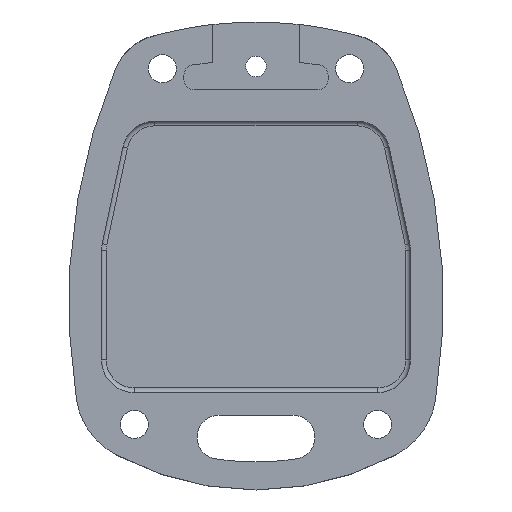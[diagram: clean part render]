
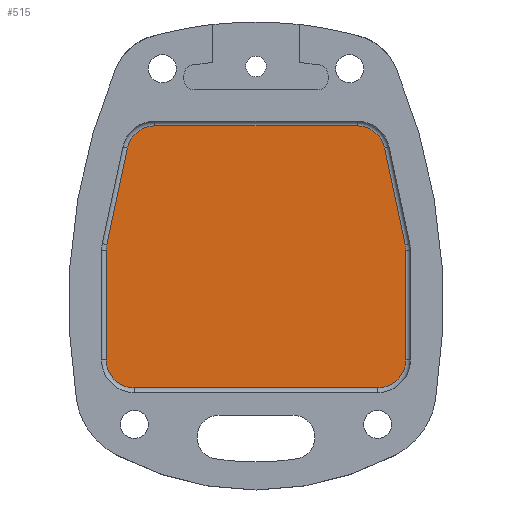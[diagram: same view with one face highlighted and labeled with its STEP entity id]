
A CAD part, front view. The second image highlights one B-rep face of the part: STEP entity #515.
In plain terms, the highlighted planar face has unit normal (0, -1, 0).
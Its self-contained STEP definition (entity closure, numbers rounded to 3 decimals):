
#27 = CIRCLE ( 'NONE', #3168, 3. ) ;
#43 = VERTEX_POINT ( 'NONE', #3328 ) ;
#50 = VERTEX_POINT ( 'NONE', #736 ) ;
#53 = ORIENTED_EDGE ( 'NONE', *, *, #2998, .F. ) ;
#86 = EDGE_CURVE ( 'NONE', #2087, #2676, #3162, .T. ) ;
#232 = CARTESIAN_POINT ( 'NONE',  ( 10.807, 4.5, -12.1 ) ) ;
#290 = AXIS2_PLACEMENT_3D ( 'NONE', #2456, #2124, #2156 ) ;
#309 = LINE ( 'NONE', #394, #1373 ) ;
#394 = CARTESIAN_POINT ( 'NONE',  ( 16., 4.5, -12.1 ) ) ;
#457 = CARTESIAN_POINT ( 'NONE',  ( 13., 4.5, -37.1 ) ) ;
#468 = DIRECTION ( 'NONE',  ( 0., 0., 1. ) ) ;
#495 = DIRECTION ( 'NONE',  ( -1., 0., 0. ) ) ;
#514 = VERTEX_POINT ( 'NONE', #2098 ) ;
#515 = ADVANCED_FACE ( 'NONE', ( #3062 ), #2637, .F. ) ;
#516 = VECTOR ( 'NONE', #2538, 1000. ) ;
#542 = EDGE_CURVE ( 'NONE', #43, #2548, #2103, .T. ) ;
#554 = EDGE_LOOP ( 'NONE', ( #707, #1710, #1840, #2379, #3082, #2157, #53, #1625, #2540, #1119, #1846, #2376 ) ) ;
#657 = CIRCLE ( 'NONE', #2201, 3. ) ;
#707 = ORIENTED_EDGE ( 'NONE', *, *, #1335, .T. ) ;
#719 = CARTESIAN_POINT ( 'NONE',  ( -10.807, 4.5, -9.1 ) ) ;
#736 = CARTESIAN_POINT ( 'NONE',  ( 15.934, 4.5, -21.792 ) ) ;
#754 = CARTESIAN_POINT ( 'NONE',  ( -13.742, 4.5, -11.476 ) ) ;
#893 = CARTESIAN_POINT ( 'NONE',  ( -10.807, 4.5, -12.1 ) ) ;
#901 = LINE ( 'NONE', #754, #2932 ) ;
#910 = EDGE_CURVE ( 'NONE', #2345, #50, #2767, .T. ) ;
#960 = DIRECTION ( 'NONE',  ( 0., -1., 0. ) ) ;
#977 = VERTEX_POINT ( 'NONE', #985 ) ;
#985 = CARTESIAN_POINT ( 'NONE',  ( 13.742, 4.5, -11.476 ) ) ;
#1005 = CARTESIAN_POINT ( 'NONE',  ( 13., 4.5, -22.415 ) ) ;
#1023 = DIRECTION ( 'NONE',  ( 0., 1., 0. ) ) ;
#1031 = VECTOR ( 'NONE', #2016, 1000. ) ;
#1039 = AXIS2_PLACEMENT_3D ( 'NONE', #3382, #2049, #468 ) ;
#1043 = CARTESIAN_POINT ( 'NONE',  ( -13.742, 4.5, -11.476 ) ) ;
#1082 = VERTEX_POINT ( 'NONE', #1043 ) ;
#1116 = LINE ( 'NONE', #2823, #1031 ) ;
#1119 = ORIENTED_EDGE ( 'NONE', *, *, #2479, .T. ) ;
#1154 = DIRECTION ( 'NONE',  ( 0., 0., 1. ) ) ;
#1159 = DIRECTION ( 'NONE',  ( 0., -1., 0. ) ) ;
#1187 = VERTEX_POINT ( 'NONE', #2356 ) ;
#1225 = CARTESIAN_POINT ( 'NONE',  ( -16., 4.5, -12.1 ) ) ;
#1233 = EDGE_CURVE ( 'NONE', #2919, #1187, #1799, .T. ) ;
#1265 = CARTESIAN_POINT ( 'NONE',  ( -15.934, 4.5, -21.792 ) ) ;
#1335 = EDGE_CURVE ( 'NONE', #977, #43, #27, .T. ) ;
#1363 = AXIS2_PLACEMENT_3D ( 'NONE', #1802, #1023, #2316 ) ;
#1373 = VECTOR ( 'NONE', #1666, 1000. ) ;
#1386 = DIRECTION ( 'NONE',  ( 0., 1., 0. ) ) ;
#1433 = CARTESIAN_POINT ( 'NONE',  ( 10.807, 4.5, -12.1 ) ) ;
#1491 = DIRECTION ( 'NONE',  ( 0., 0., 1. ) ) ;
#1536 = EDGE_CURVE ( 'NONE', #2676, #1082, #901, .T. ) ;
#1571 = CARTESIAN_POINT ( 'NONE',  ( 10.807, 4.5, -9.1 ) ) ;
#1625 = ORIENTED_EDGE ( 'NONE', *, *, #2913, .T. ) ;
#1666 = DIRECTION ( 'NONE',  ( 0., 0., 1. ) ) ;
#1710 = ORIENTED_EDGE ( 'NONE', *, *, #542, .T. ) ;
#1743 = LINE ( 'NONE', #1225, #516 ) ;
#1768 = CARTESIAN_POINT ( 'NONE',  ( 13.742, 4.5, -11.476 ) ) ;
#1793 = DIRECTION ( 'NONE',  ( 0.208, 0., 0.978 ) ) ;
#1799 = CIRCLE ( 'NONE', #290, 3. ) ;
#1802 = CARTESIAN_POINT ( 'NONE',  ( -13., 4.5, -22.415 ) ) ;
#1840 = ORIENTED_EDGE ( 'NONE', *, *, #3290, .F. ) ;
#1846 = ORIENTED_EDGE ( 'NONE', *, *, #910, .T. ) ;
#1924 = CARTESIAN_POINT ( 'NONE',  ( 16., 4.5, -22.415 ) ) ;
#1937 = VECTOR ( 'NONE', #495, 1000. ) ;
#1947 = EDGE_CURVE ( 'NONE', #514, #2087, #1743, .T. ) ;
#2016 = DIRECTION ( 'NONE',  ( 1., 0., 0. ) ) ;
#2049 = DIRECTION ( 'NONE',  ( 0., 1., 0. ) ) ;
#2068 = DIRECTION ( 'NONE',  ( 0., 1., 0. ) ) ;
#2087 = VERTEX_POINT ( 'NONE', #3057 ) ;
#2098 = CARTESIAN_POINT ( 'NONE',  ( -16., 4.5, -34.1 ) ) ;
#2103 = LINE ( 'NONE', #1571, #1937 ) ;
#2124 = DIRECTION ( 'NONE',  ( 0., -1., 0. ) ) ;
#2156 = DIRECTION ( 'NONE',  ( 0., 0., 1. ) ) ;
#2157 = ORIENTED_EDGE ( 'NONE', *, *, #1947, .F. ) ;
#2172 = EDGE_CURVE ( 'NONE', #50, #977, #2712, .T. ) ;
#2201 = AXIS2_PLACEMENT_3D ( 'NONE', #893, #1386, #1154 ) ;
#2255 = VECTOR ( 'NONE', #2850, 1000. ) ;
#2316 = DIRECTION ( 'NONE',  ( 0., 0., 1. ) ) ;
#2345 = VERTEX_POINT ( 'NONE', #1924 ) ;
#2356 = CARTESIAN_POINT ( 'NONE',  ( 16., 4.5, -34.1 ) ) ;
#2376 = ORIENTED_EDGE ( 'NONE', *, *, #2172, .T. ) ;
#2379 = ORIENTED_EDGE ( 'NONE', *, *, #1536, .F. ) ;
#2456 = CARTESIAN_POINT ( 'NONE',  ( 13., 4.5, -34.1 ) ) ;
#2479 = EDGE_CURVE ( 'NONE', #1187, #2345, #309, .T. ) ;
#2538 = DIRECTION ( 'NONE',  ( 0., 0., 1. ) ) ;
#2540 = ORIENTED_EDGE ( 'NONE', *, *, #1233, .T. ) ;
#2548 = VERTEX_POINT ( 'NONE', #719 ) ;
#2637 = PLANE ( 'NONE',  #3294 ) ;
#2676 = VERTEX_POINT ( 'NONE', #1265 ) ;
#2693 = CIRCLE ( 'NONE', #1039, 3. ) ;
#2712 = LINE ( 'NONE', #1768, #2255 ) ;
#2767 = CIRCLE ( 'NONE', #2796, 3. ) ;
#2796 = AXIS2_PLACEMENT_3D ( 'NONE', #1005, #960, #1491 ) ;
#2810 = CARTESIAN_POINT ( 'NONE',  ( -13., 4.5, -37.1 ) ) ;
#2823 = CARTESIAN_POINT ( 'NONE',  ( 10.807, 4.5, -37.1 ) ) ;
#2850 = DIRECTION ( 'NONE',  ( -0.208, 0., 0.978 ) ) ;
#2908 = VERTEX_POINT ( 'NONE', #2810 ) ;
#2913 = EDGE_CURVE ( 'NONE', #2908, #2919, #1116, .T. ) ;
#2919 = VERTEX_POINT ( 'NONE', #457 ) ;
#2932 = VECTOR ( 'NONE', #1793, 1000. ) ;
#2998 = EDGE_CURVE ( 'NONE', #2908, #514, #2693, .T. ) ;
#3037 = DIRECTION ( 'NONE',  ( 0., 0., 1. ) ) ;
#3057 = CARTESIAN_POINT ( 'NONE',  ( -16., 4.5, -22.415 ) ) ;
#3062 = FACE_OUTER_BOUND ( 'NONE', #554, .T. ) ;
#3082 = ORIENTED_EDGE ( 'NONE', *, *, #86, .F. ) ;
#3162 = CIRCLE ( 'NONE', #1363, 3. ) ;
#3168 = AXIS2_PLACEMENT_3D ( 'NONE', #1433, #1159, #3037 ) ;
#3290 = EDGE_CURVE ( 'NONE', #1082, #2548, #657, .T. ) ;
#3294 = AXIS2_PLACEMENT_3D ( 'NONE', #232, #2068, #3393 ) ;
#3328 = CARTESIAN_POINT ( 'NONE',  ( 10.807, 4.5, -9.1 ) ) ;
#3382 = CARTESIAN_POINT ( 'NONE',  ( -13., 4.5, -34.1 ) ) ;
#3393 = DIRECTION ( 'NONE',  ( 0., 0., 1. ) ) ;
